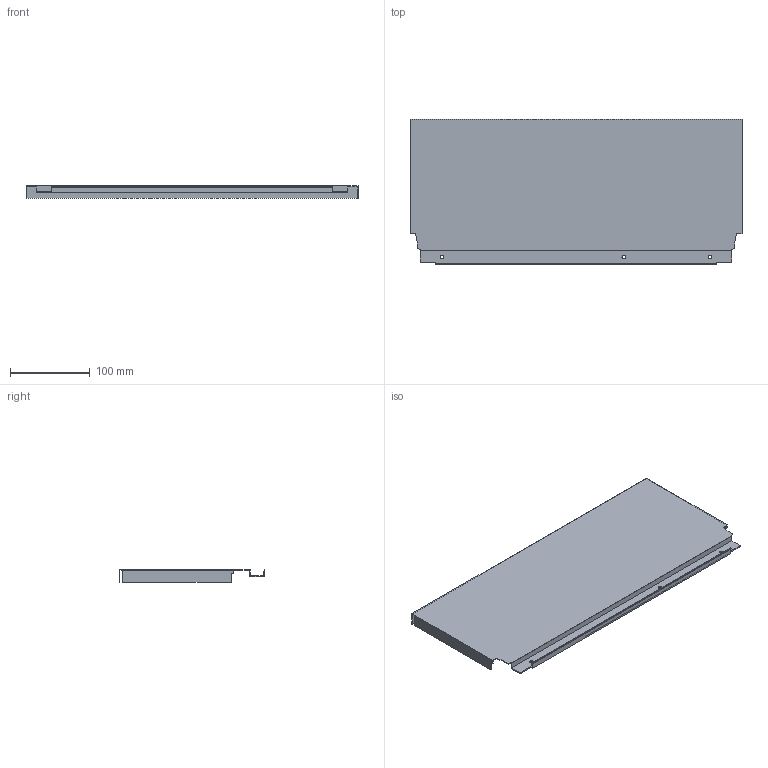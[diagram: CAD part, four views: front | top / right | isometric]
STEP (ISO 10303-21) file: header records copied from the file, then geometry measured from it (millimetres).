
FILE_DESCRIPTION (( 'STEP AP214' ), '1' );
FILE_NAME ('_DWD_XP Stahlrückwand_H182_KAB500_S16.step', '2010-07-08T12:57:33', ( 'grass' ), ( '' ), 'SwSTEP 2.0', 'SolidWorks 2010', '' );
FILE_SCHEMA (( 'AUTOMOTIVE_DESIGN' ));
Length unit declared in the file: millimetre
Products named in the file (1): _DWD_XP Stahlrückwand_H182_KAB500_S16
Bounding box: 417 x 182.49 x 16 mm (x, y, z)
Volume: 78958 mm3; surface area: 183623.2 mm2
Topology: 1 solids, 1 shells, 46 faces, 132 edges, 88 vertices
Faces by surface type: plane 40, cylinder 6
Entity records: 1534 total; most frequent: CARTESIAN_POINT 267, ORIENTED_EDGE 264, DIRECTION 238, EDGE_CURVE 132, LINE 120, VECTOR 120, VERTEX_POINT 88, AXIS2_PLACEMENT_3D 59
